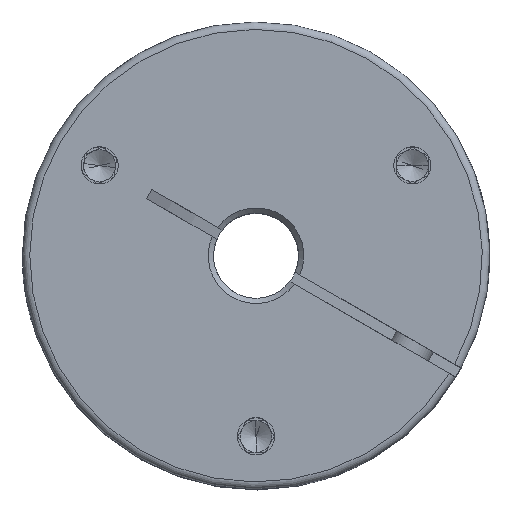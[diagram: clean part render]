
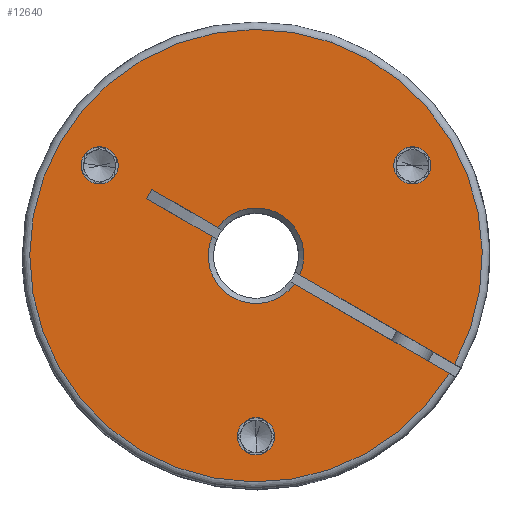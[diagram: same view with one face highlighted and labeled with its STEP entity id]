
A CAD part, top view. The second image highlights one B-rep face of the part: STEP entity #12640.
In plain terms, the highlighted planar face has unit normal (0, 0, 1).
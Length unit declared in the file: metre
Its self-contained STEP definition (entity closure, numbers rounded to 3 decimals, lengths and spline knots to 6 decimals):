
#298 = CARTESIAN_POINT ( 'NONE',  ( 0.00025, 0.000433, 0.016375 ) ) ;
#338 = DIRECTION ( 'NONE',  ( 0., 0., 1. ) ) ;
#537 = DIRECTION ( 'NONE',  ( 0.866, -0.5, 0. ) ) ;
#857 = DIRECTION ( 'NONE',  ( 0., 0., 1. ) ) ;
#1092 = DIRECTION ( 'NONE',  ( 0.866, -0.5, 0. ) ) ;
#1413 = VERTEX_POINT ( 'NONE', #11084 ) ;
#1450 = EDGE_CURVE ( 'NONE', #16129, #16979, #7324, .T. ) ;
#1492 = LINE ( 'NONE', #10103, #4999 ) ;
#1561 = ORIENTED_EDGE ( 'NONE', *, *, #13143, .F. ) ;
#1718 = VERTEX_POINT ( 'NONE', #13833 ) ;
#1762 = DIRECTION ( 'NONE',  ( 0., 0., 1. ) ) ;
#1764 = ORIENTED_EDGE ( 'NONE', *, *, #13306, .F. ) ;
#2013 = CARTESIAN_POINT ( 'NONE',  ( 0., -0.017, 0.016375 ) ) ;
#2030 = AXIS2_PLACEMENT_3D ( 'NONE', #2497, #857, #1092 ) ;
#2371 = CARTESIAN_POINT ( 'NONE',  ( -0.001516, -0.016125, 0.016375 ) ) ;
#2483 = CARTESIAN_POINT ( 'NONE',  ( 0.001516, -0.017875, 0.016375 ) ) ;
#2497 = CARTESIAN_POINT ( 'NONE',  ( 0.014722, 0.0085, 0.016375 ) ) ;
#2519 = CARTESIAN_POINT ( 'NONE',  ( 0.003623, -0.002669, 0.016375 ) ) ;
#2659 = EDGE_CURVE ( 'NONE', #1718, #8739, #4681, .T. ) ;
#2700 = ORIENTED_EDGE ( 'NONE', *, *, #17328, .T. ) ;
#2953 = DIRECTION ( 'NONE',  ( 0.866, -0.5, 0. ) ) ;
#3017 = ORIENTED_EDGE ( 'NONE', *, *, #14624, .F. ) ;
#3024 = CARTESIAN_POINT ( 'NONE',  ( -0.009809, 0.006241, 0.016375 ) ) ;
#3134 = ORIENTED_EDGE ( 'NONE', *, *, #12233, .F. ) ;
#3193 = EDGE_CURVE ( 'NONE', #4197, #8429, #11159, .T. ) ;
#3574 = CARTESIAN_POINT ( 'NONE',  ( 0., 0., 0.016375 ) ) ;
#3786 = CARTESIAN_POINT ( 'NONE',  ( -0.010309, 0.005375, 0.016375 ) ) ;
#3998 = EDGE_CURVE ( 'NONE', #13051, #4240, #8762, .T. ) ;
#4024 = EDGE_CURVE ( 'NONE', #4240, #13051, #7230, .T. ) ;
#4067 = ORIENTED_EDGE ( 'NONE', *, *, #2659, .T. ) ;
#4197 = VERTEX_POINT ( 'NONE', #16354 ) ;
#4198 = CIRCLE ( 'NONE', #7025, 0.0045 ) ;
#4240 = VERTEX_POINT ( 'NONE', #2371 ) ;
#4411 = DIRECTION ( 'NONE',  ( 0., 0., 1. ) ) ;
#4490 = ORIENTED_EDGE ( 'NONE', *, *, #1450, .T. ) ;
#4509 = DIRECTION ( 'NONE',  ( -0.866, 0.5, 0. ) ) ;
#4581 = CIRCLE ( 'NONE', #9263, 0.00175 ) ;
#4596 = FACE_BOUND ( 'NONE', #15318, .T. ) ;
#4601 = AXIS2_PLACEMENT_3D ( 'NONE', #4807, #1762, #15810 ) ;
#4681 = CIRCLE ( 'NONE', #7473, 0.0213 ) ;
#4807 = CARTESIAN_POINT ( 'NONE',  ( 0., -0.017, 0.016375 ) ) ;
#4999 = VECTOR ( 'NONE', #4509, 1. ) ;
#5172 = ORIENTED_EDGE ( 'NONE', *, *, #5637, .F. ) ;
#5297 = DIRECTION ( 'NONE',  ( -0.866, 0.5, 0. ) ) ;
#5566 = CARTESIAN_POINT ( 'NONE',  ( -0.00025, -0.000433, 0.016375 ) ) ;
#5637 = EDGE_CURVE ( 'NONE', #1718, #1413, #15059, .T. ) ;
#5688 = CARTESIAN_POINT ( 'NONE',  ( 0.014722, 0.0085, 0.016375 ) ) ;
#6183 = CIRCLE ( 'NONE', #11725, 0.00175 ) ;
#6297 = CARTESIAN_POINT ( 'NONE',  ( 0., 0., 0.016375 ) ) ;
#6676 = ORIENTED_EDGE ( 'NONE', *, *, #3193, .F. ) ;
#7025 = AXIS2_PLACEMENT_3D ( 'NONE', #6297, #10429, #16089 ) ;
#7083 = DIRECTION ( 'NONE',  ( 0., 0., 1. ) ) ;
#7200 = LINE ( 'NONE', #3786, #16481 ) ;
#7230 = CIRCLE ( 'NONE', #10444, 0.00175 ) ;
#7324 = LINE ( 'NONE', #5566, #10370 ) ;
#7473 = AXIS2_PLACEMENT_3D ( 'NONE', #9428, #8039, #15039 ) ;
#7621 = CIRCLE ( 'NONE', #17110, 0.00175 ) ;
#8039 = DIRECTION ( 'NONE',  ( 0., 0., 1. ) ) ;
#8073 = FACE_BOUND ( 'NONE', #13519, .T. ) ;
#8429 = VERTEX_POINT ( 'NONE', #3024 ) ;
#8504 = FACE_BOUND ( 'NONE', #10438, .T. ) ;
#8540 = CARTESIAN_POINT ( 'NONE',  ( -0.014722, 0.0085, 0.016375 ) ) ;
#8559 = CARTESIAN_POINT ( 'NONE',  ( -0.016238, 0.009375, 0.016375 ) ) ;
#8601 = DIRECTION ( 'NONE',  ( 0.866, -0.5, 0. ) ) ;
#8739 = VERTEX_POINT ( 'NONE', #10986 ) ;
#8762 = CIRCLE ( 'NONE', #4601, 0.00175 ) ;
#9209 = DIRECTION ( 'NONE',  ( 0.866, -0.5, 0. ) ) ;
#9225 = VECTOR ( 'NONE', #15746, 1. ) ;
#9263 = AXIS2_PLACEMENT_3D ( 'NONE', #12657, #7083, #16662 ) ;
#9385 = ORIENTED_EDGE ( 'NONE', *, *, #12955, .F. ) ;
#9428 = CARTESIAN_POINT ( 'NONE',  ( 0., 0., 0.016375 ) ) ;
#9700 = CARTESIAN_POINT ( 'NONE',  ( 0.00025, 0.000433, 0.016375 ) ) ;
#10043 = CARTESIAN_POINT ( 'NONE',  ( 0.016238, 0.007625, 0.016375 ) ) ;
#10103 = CARTESIAN_POINT ( 'NONE',  ( -0.00025, -0.000433, 0.016375 ) ) ;
#10254 = FACE_OUTER_BOUND ( 'NONE', #11115, .T. ) ;
#10265 = CIRCLE ( 'NONE', #17497, 0.0045 ) ;
#10370 = VECTOR ( 'NONE', #11259, 1. ) ;
#10429 = DIRECTION ( 'NONE',  ( 0., 0., -1. ) ) ;
#10438 = EDGE_LOOP ( 'NONE', ( #3017, #3134 ) ) ;
#10444 = AXIS2_PLACEMENT_3D ( 'NONE', #2013, #14234, #537 ) ;
#10986 = CARTESIAN_POINT ( 'NONE',  ( 0.018191, -0.01108, 0.016375 ) ) ;
#11084 = CARTESIAN_POINT ( 'NONE',  ( 0.004123, -0.001803, 0.016375 ) ) ;
#11115 = EDGE_LOOP ( 'NONE', ( #4067, #2700, #11724, #4490, #9385, #6676, #15632, #5172 ) ) ;
#11159 = LINE ( 'NONE', #9700, #16960 ) ;
#11236 = VERTEX_POINT ( 'NONE', #8559 ) ;
#11259 = DIRECTION ( 'NONE',  ( -0.866, 0.5, 0. ) ) ;
#11325 = DIRECTION ( 'NONE',  ( 0., 0., 1. ) ) ;
#11693 = EDGE_CURVE ( 'NONE', #13705, #16129, #4198, .T. ) ;
#11724 = ORIENTED_EDGE ( 'NONE', *, *, #11693, .T. ) ;
#11725 = AXIS2_PLACEMENT_3D ( 'NONE', #5688, #4411, #2953 ) ;
#11805 = ORIENTED_EDGE ( 'NONE', *, *, #3998, .F. ) ;
#12014 = VERTEX_POINT ( 'NONE', #14111 ) ;
#12233 = EDGE_CURVE ( 'NONE', #13128, #15118, #16713, .T. ) ;
#12640 = ADVANCED_FACE ( 'NONE', ( #8073, #8504, #4596, #10254 ), #15593, .T. ) ;
#12657 = CARTESIAN_POINT ( 'NONE',  ( -0.014722, 0.0085, 0.016375 ) ) ;
#12796 = CARTESIAN_POINT ( 'NONE',  ( -0.004123, 0.001803, 0.016375 ) ) ;
#12955 = EDGE_CURVE ( 'NONE', #8429, #16979, #7200, .T. ) ;
#13051 = VERTEX_POINT ( 'NONE', #2483 ) ;
#13128 = VERTEX_POINT ( 'NONE', #13615 ) ;
#13143 = EDGE_CURVE ( 'NONE', #12014, #11236, #4581, .T. ) ;
#13251 = CARTESIAN_POINT ( 'NONE',  ( -0.010309, 0.005375, 0.016375 ) ) ;
#13253 = DIRECTION ( 'NONE',  ( 0., 0., -1. ) ) ;
#13306 = EDGE_CURVE ( 'NONE', #11236, #12014, #7621, .T. ) ;
#13519 = EDGE_LOOP ( 'NONE', ( #1561, #1764 ) ) ;
#13615 = CARTESIAN_POINT ( 'NONE',  ( 0.013207, 0.009375, 0.016375 ) ) ;
#13705 = VERTEX_POINT ( 'NONE', #2519 ) ;
#13833 = CARTESIAN_POINT ( 'NONE',  ( 0.018691, -0.010214, 0.016375 ) ) ;
#13878 = AXIS2_PLACEMENT_3D ( 'NONE', #15537, #338, #16912 ) ;
#14111 = CARTESIAN_POINT ( 'NONE',  ( -0.013207, 0.007625, 0.016375 ) ) ;
#14234 = DIRECTION ( 'NONE',  ( 0., 0., 1. ) ) ;
#14624 = EDGE_CURVE ( 'NONE', #15118, #13128, #6183, .T. ) ;
#14855 = EDGE_CURVE ( 'NONE', #4197, #1413, #10265, .T. ) ;
#15039 = DIRECTION ( 'NONE',  ( 0.866, -0.5, 0. ) ) ;
#15059 = LINE ( 'NONE', #298, #9225 ) ;
#15118 = VERTEX_POINT ( 'NONE', #10043 ) ;
#15318 = EDGE_LOOP ( 'NONE', ( #11805, #15682 ) ) ;
#15537 = CARTESIAN_POINT ( 'NONE',  ( 0., 0., 0.016375 ) ) ;
#15593 = PLANE ( 'NONE',  #13878 ) ;
#15632 = ORIENTED_EDGE ( 'NONE', *, *, #14855, .T. ) ;
#15682 = ORIENTED_EDGE ( 'NONE', *, *, #4024, .F. ) ;
#15746 = DIRECTION ( 'NONE',  ( -0.866, 0.5, 0. ) ) ;
#15810 = DIRECTION ( 'NONE',  ( 0.866, -0.5, 0. ) ) ;
#16070 = DIRECTION ( 'NONE',  ( -0.5, -0.866, 0. ) ) ;
#16089 = DIRECTION ( 'NONE',  ( 0.866, -0.5, 0. ) ) ;
#16129 = VERTEX_POINT ( 'NONE', #12796 ) ;
#16354 = CARTESIAN_POINT ( 'NONE',  ( -0.003623, 0.002669, 0.016375 ) ) ;
#16481 = VECTOR ( 'NONE', #16070, 1. ) ;
#16662 = DIRECTION ( 'NONE',  ( 0.866, -0.5, 0. ) ) ;
#16713 = CIRCLE ( 'NONE', #2030, 0.00175 ) ;
#16912 = DIRECTION ( 'NONE',  ( 0.866, -0.5, 0. ) ) ;
#16960 = VECTOR ( 'NONE', #5297, 1. ) ;
#16979 = VERTEX_POINT ( 'NONE', #13251 ) ;
#17110 = AXIS2_PLACEMENT_3D ( 'NONE', #8540, #11325, #8601 ) ;
#17328 = EDGE_CURVE ( 'NONE', #8739, #13705, #1492, .T. ) ;
#17497 = AXIS2_PLACEMENT_3D ( 'NONE', #3574, #13253, #9209 ) ;
